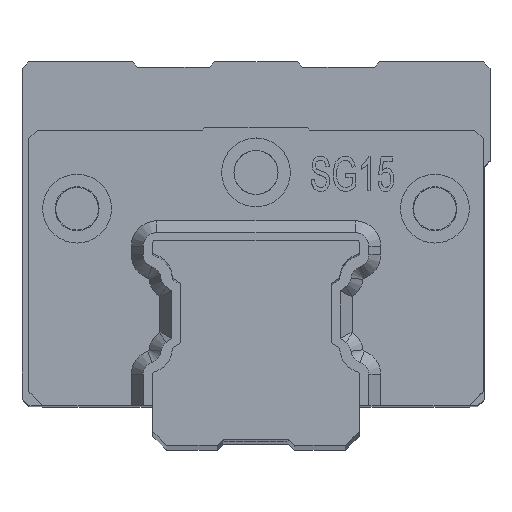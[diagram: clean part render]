
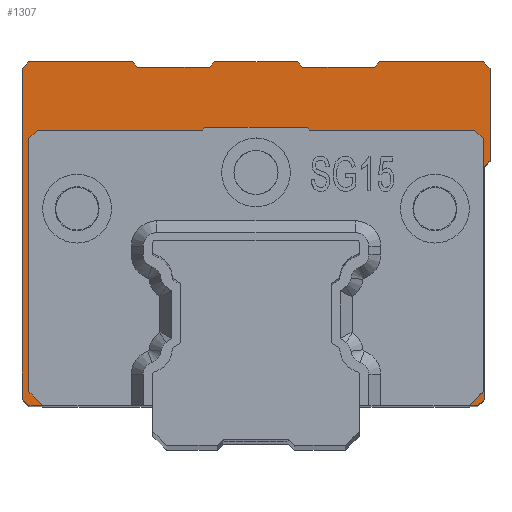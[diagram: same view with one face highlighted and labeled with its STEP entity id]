
A CAD part, top view. The second image highlights one B-rep face of the part: STEP entity #1307.
In plain terms, the highlighted planar face has unit normal (0, 0, 1).
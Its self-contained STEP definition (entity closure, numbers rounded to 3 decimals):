
#1307=ADVANCED_FACE('',(#1918),#1624,.F.);
#1624=PLANE('',#8254);
#1918=FACE_OUTER_BOUND('',#2338,.T.);
#2338=EDGE_LOOP('',(#3749,#3750,#3751,#3752,#3753,#3754,#3755,#3756,#3757,
#3758,#3759,#3760,#3761,#3762,#3763,#3764,#3765,#3766,#3767,#3768,#3769,
#3770,#3771,#3772,#3773,#3774,#3775,#3776,#3777,#3778));
#3749=ORIENTED_EDGE('',*,*,#6054,.F.);
#3750=ORIENTED_EDGE('',*,*,#6033,.T.);
#3751=ORIENTED_EDGE('',*,*,#6036,.T.);
#3752=ORIENTED_EDGE('',*,*,#6038,.T.);
#3753=ORIENTED_EDGE('',*,*,#6041,.F.);
#3754=ORIENTED_EDGE('',*,*,#6042,.T.);
#3755=ORIENTED_EDGE('',*,*,#6031,.T.);
#3756=ORIENTED_EDGE('',*,*,#6029,.T.);
#3757=ORIENTED_EDGE('',*,*,#6027,.F.);
#3758=ORIENTED_EDGE('',*,*,#6025,.T.);
#3759=ORIENTED_EDGE('',*,*,#6023,.T.);
#3760=ORIENTED_EDGE('',*,*,#6020,.T.);
#3761=ORIENTED_EDGE('',*,*,#6049,.F.);
#3762=ORIENTED_EDGE('',*,*,#6196,.T.);
#3763=ORIENTED_EDGE('',*,*,#6171,.T.);
#3764=ORIENTED_EDGE('',*,*,#6168,.T.);
#3765=ORIENTED_EDGE('',*,*,#6190,.T.);
#3766=ORIENTED_EDGE('',*,*,#6160,.T.);
#3767=ORIENTED_EDGE('',*,*,#6194,.T.);
#3768=ORIENTED_EDGE('',*,*,#6173,.T.);
#3769=ORIENTED_EDGE('',*,*,#6186,.T.);
#3770=ORIENTED_EDGE('',*,*,#6176,.T.);
#3771=ORIENTED_EDGE('',*,*,#6195,.T.);
#3772=ORIENTED_EDGE('',*,*,#6179,.T.);
#3773=ORIENTED_EDGE('',*,*,#6185,.T.);
#3774=ORIENTED_EDGE('',*,*,#6182,.T.);
#3775=ORIENTED_EDGE('',*,*,#6189,.T.);
#3776=ORIENTED_EDGE('',*,*,#6163,.T.);
#3777=ORIENTED_EDGE('',*,*,#6191,.T.);
#3778=ORIENTED_EDGE('',*,*,#6166,.T.);
#5149=VERTEX_POINT('',#12282);
#5150=VERTEX_POINT('',#12283);
#5151=VERTEX_POINT('',#12288);
#5152=VERTEX_POINT('',#12292);
#5153=VERTEX_POINT('',#12296);
#5154=VERTEX_POINT('',#12300);
#5155=VERTEX_POINT('',#12304);
#5156=VERTEX_POINT('',#12308);
#5157=VERTEX_POINT('',#12309);
#5158=VERTEX_POINT('',#12314);
#5159=VERTEX_POINT('',#12318);
#5160=VERTEX_POINT('',#12322);
#5165=VERTEX_POINT('',#12337);
#5169=VERTEX_POINT('',#12348);
#5224=VERTEX_POINT('',#12566);
#5225=VERTEX_POINT('',#12567);
#5226=VERTEX_POINT('',#12572);
#5227=VERTEX_POINT('',#12573);
#5228=VERTEX_POINT('',#12578);
#5229=VERTEX_POINT('',#12582);
#5230=VERTEX_POINT('',#12583);
#5231=VERTEX_POINT('',#12588);
#5232=VERTEX_POINT('',#12592);
#5233=VERTEX_POINT('',#12593);
#5234=VERTEX_POINT('',#12598);
#5235=VERTEX_POINT('',#12599);
#5236=VERTEX_POINT('',#12604);
#5237=VERTEX_POINT('',#12605);
#5238=VERTEX_POINT('',#12610);
#5239=VERTEX_POINT('',#12611);
#6020=EDGE_CURVE('',#5149,#5150,#6905,.T.);
#6023=EDGE_CURVE('',#5151,#5149,#6908,.T.);
#6025=EDGE_CURVE('',#5152,#5151,#6910,.T.);
#6027=EDGE_CURVE('',#5152,#5153,#6912,.T.);
#6029=EDGE_CURVE('',#5154,#5153,#6914,.T.);
#6031=EDGE_CURVE('',#5155,#5154,#6916,.T.);
#6033=EDGE_CURVE('',#5156,#5157,#6918,.T.);
#6036=EDGE_CURVE('',#5157,#5158,#6921,.T.);
#6038=EDGE_CURVE('',#5158,#5159,#6923,.T.);
#6041=EDGE_CURVE('',#5160,#5159,#6926,.T.);
#6042=EDGE_CURVE('',#5160,#5155,#6927,.T.);
#6049=EDGE_CURVE('',#5165,#5150,#6934,.T.);
#6054=EDGE_CURVE('',#5156,#5169,#6939,.T.);
#6160=EDGE_CURVE('',#5224,#5225,#7003,.T.);
#6163=EDGE_CURVE('',#5226,#5227,#7006,.T.);
#6166=EDGE_CURVE('',#5228,#5169,#7009,.T.);
#6168=EDGE_CURVE('',#5229,#5230,#7011,.T.);
#6171=EDGE_CURVE('',#5231,#5229,#7014,.T.);
#6173=EDGE_CURVE('',#5232,#5233,#7016,.T.);
#6176=EDGE_CURVE('',#5234,#5235,#7019,.T.);
#6179=EDGE_CURVE('',#5236,#5237,#7022,.T.);
#6182=EDGE_CURVE('',#5238,#5239,#7025,.T.);
#6185=EDGE_CURVE('',#5237,#5238,#7028,.T.);
#6186=EDGE_CURVE('',#5233,#5234,#7029,.T.);
#6189=EDGE_CURVE('',#5239,#5226,#7030,.T.);
#6190=EDGE_CURVE('',#5230,#5224,#7031,.T.);
#6191=EDGE_CURVE('',#5227,#5228,#7032,.T.);
#6194=EDGE_CURVE('',#5225,#5232,#7033,.T.);
#6195=EDGE_CURVE('',#5235,#5236,#7034,.T.);
#6196=EDGE_CURVE('',#5165,#5231,#7035,.T.);
#6905=LINE('',#12281,#7537);
#6908=LINE('',#12287,#7540);
#6910=LINE('',#12291,#7542);
#6912=LINE('',#12295,#7544);
#6914=LINE('',#12299,#7546);
#6916=LINE('',#12303,#7548);
#6918=LINE('',#12307,#7550);
#6921=LINE('',#12313,#7553);
#6923=LINE('',#12317,#7555);
#6926=LINE('',#12323,#7558);
#6927=LINE('',#12325,#7559);
#6934=LINE('',#12338,#7566);
#6939=LINE('',#12347,#7571);
#7003=LINE('',#12565,#7635);
#7006=LINE('',#12571,#7638);
#7009=LINE('',#12577,#7641);
#7011=LINE('',#12581,#7643);
#7014=LINE('',#12587,#7646);
#7016=LINE('',#12591,#7648);
#7019=LINE('',#12597,#7651);
#7022=LINE('',#12603,#7654);
#7025=LINE('',#12609,#7657);
#7028=LINE('',#12615,#7660);
#7029=LINE('',#12617,#7661);
#7030=LINE('',#12623,#7662);
#7031=LINE('',#12625,#7663);
#7032=LINE('',#12627,#7664);
#7033=LINE('',#12633,#7665);
#7034=LINE('',#12635,#7666);
#7035=LINE('',#12637,#7667);
#7537=VECTOR('',#9143,1.);
#7540=VECTOR('',#9148,1.);
#7542=VECTOR('',#9152,1.);
#7544=VECTOR('',#9156,1.);
#7546=VECTOR('',#9160,1.);
#7548=VECTOR('',#9164,1.);
#7550=VECTOR('',#9168,1.);
#7553=VECTOR('',#9173,1.);
#7555=VECTOR('',#9177,1.);
#7558=VECTOR('',#9182,1.);
#7559=VECTOR('',#9185,1.);
#7566=VECTOR('',#9194,1.);
#7571=VECTOR('',#9201,1.);
#7635=VECTOR('',#9463,1.);
#7638=VECTOR('',#9468,1.);
#7641=VECTOR('',#9473,1.);
#7643=VECTOR('',#9477,1.);
#7646=VECTOR('',#9482,1.);
#7648=VECTOR('',#9486,1.);
#7651=VECTOR('',#9491,1.);
#7654=VECTOR('',#9496,1.);
#7657=VECTOR('',#9501,1.);
#7660=VECTOR('',#9506,1.);
#7661=VECTOR('',#9509,1.);
#7662=VECTOR('',#9516,1.);
#7663=VECTOR('',#9519,1.);
#7664=VECTOR('',#9522,1.);
#7665=VECTOR('',#9529,1.);
#7666=VECTOR('',#9532,1.);
#7667=VECTOR('',#9535,1.);
#8254=AXIS2_PLACEMENT_3D('',#12640,#9540,#9541);
#9143=DIRECTION('',(-0.707,-0.707,0.));
#9148=DIRECTION('',(0.,-1.,0.));
#9152=DIRECTION('',(0.707,-0.707,0.));
#9156=DIRECTION('',(-1.,0.,0.));
#9160=DIRECTION('',(0.707,-0.707,0.));
#9164=DIRECTION('',(1.,0.,0.));
#9168=DIRECTION('',(-0.707,0.707,0.));
#9173=DIRECTION('',(0.,1.,0.));
#9177=DIRECTION('',(0.707,0.707,0.));
#9182=DIRECTION('',(-1.,0.,0.));
#9185=DIRECTION('',(0.707,0.707,0.));
#9194=DIRECTION('',(-1.,0.,0.));
#9201=DIRECTION('',(-1.,0.,0.));
#9463=DIRECTION('',(-0.707,0.707,0.));
#9468=DIRECTION('',(-0.707,-0.707,0.));
#9473=DIRECTION('',(0.707,-0.707,0.));
#9477=DIRECTION('',(0.707,0.707,0.));
#9482=DIRECTION('',(0.,1.,0.));
#9486=DIRECTION('',(-0.707,-0.707,0.));
#9491=DIRECTION('',(-0.707,0.707,0.));
#9496=DIRECTION('',(-0.707,-0.707,0.));
#9501=DIRECTION('',(-0.707,0.707,0.));
#9506=DIRECTION('',(-1.,0.,0.));
#9509=DIRECTION('',(-1.,0.,0.));
#9516=DIRECTION('',(-1.,0.,0.));
#9519=DIRECTION('',(0.,1.,0.));
#9522=DIRECTION('',(0.,-1.,0.));
#9529=DIRECTION('',(-1.,0.,0.));
#9532=DIRECTION('',(-1.,0.,0.));
#9535=DIRECTION('',(0.707,0.707,0.));
#9540=DIRECTION('',(0.,0.,-1.));
#9541=DIRECTION('',(1.,0.,0.));
#12281=CARTESIAN_POINT('',(12.155,-2.389,224.699));
#12282=CARTESIAN_POINT('',(12.155,-2.389,224.699));
#12283=CARTESIAN_POINT('',(11.143,-3.401,224.699));
#12287=CARTESIAN_POINT('',(12.155,-3.772,224.699));
#12288=CARTESIAN_POINT('',(12.155,16.011,224.699));
#12291=CARTESIAN_POINT('',(11.555,16.611,224.699));
#12292=CARTESIAN_POINT('',(11.555,16.611,224.699));
#12295=CARTESIAN_POINT('',(6.455,16.611,224.699));
#12296=CARTESIAN_POINT('',(-0.438,16.611,224.699));
#12299=CARTESIAN_POINT('',(-0.992,17.164,224.699));
#12300=CARTESIAN_POINT('',(-0.638,16.811,224.699));
#12303=CARTESIAN_POINT('',(0.655,16.811,224.699));
#12304=CARTESIAN_POINT('',(-8.052,16.811,224.699));
#12307=CARTESIAN_POINT('',(-20.845,-2.389,224.699));
#12308=CARTESIAN_POINT('',(-19.834,-3.401,224.699));
#12309=CARTESIAN_POINT('',(-20.845,-2.389,224.699));
#12313=CARTESIAN_POINT('',(-20.845,-3.772,224.699));
#12314=CARTESIAN_POINT('',(-20.845,16.011,224.699));
#12317=CARTESIAN_POINT('',(-20.245,16.611,224.699));
#12318=CARTESIAN_POINT('',(-20.245,16.611,224.699));
#12322=CARTESIAN_POINT('',(-8.252,16.611,224.699));
#12323=CARTESIAN_POINT('',(-15.145,16.611,224.699));
#12325=CARTESIAN_POINT('',(-7.699,17.164,224.699));
#12337=CARTESIAN_POINT('',(11.755,-3.401,224.699));
#12338=CARTESIAN_POINT('',(-20.345,-3.401,224.699));
#12347=CARTESIAN_POINT('',(-20.345,-3.401,224.699));
#12348=CARTESIAN_POINT('',(-20.845,-3.401,224.699));
#12565=CARTESIAN_POINT('',(12.655,21.099,224.699));
#12566=CARTESIAN_POINT('',(12.655,21.099,224.699));
#12567=CARTESIAN_POINT('',(12.155,21.599,224.699));
#12571=CARTESIAN_POINT('',(-20.845,21.599,224.699));
#12572=CARTESIAN_POINT('',(-20.845,21.599,224.699));
#12573=CARTESIAN_POINT('',(-21.345,21.099,224.699));
#12577=CARTESIAN_POINT('',(-21.345,-2.901,224.699));
#12578=CARTESIAN_POINT('',(-21.345,-2.901,224.699));
#12581=CARTESIAN_POINT('',(12.255,13.999,224.699));
#12582=CARTESIAN_POINT('',(12.255,13.999,224.699));
#12583=CARTESIAN_POINT('',(12.655,14.399,224.699));
#12587=CARTESIAN_POINT('',(12.255,-2.901,224.699));
#12588=CARTESIAN_POINT('',(12.255,-2.901,224.699));
#12591=CARTESIAN_POINT('',(4.655,21.599,224.699));
#12592=CARTESIAN_POINT('',(4.655,21.599,224.699));
#12593=CARTESIAN_POINT('',(4.255,21.199,224.699));
#12597=CARTESIAN_POINT('',(-0.945,21.199,224.699));
#12598=CARTESIAN_POINT('',(-0.945,21.199,224.699));
#12599=CARTESIAN_POINT('',(-1.345,21.599,224.699));
#12603=CARTESIAN_POINT('',(-7.345,21.599,224.699));
#12604=CARTESIAN_POINT('',(-7.345,21.599,224.699));
#12605=CARTESIAN_POINT('',(-7.745,21.199,224.699));
#12609=CARTESIAN_POINT('',(-12.945,21.199,224.699));
#12610=CARTESIAN_POINT('',(-12.945,21.199,224.699));
#12611=CARTESIAN_POINT('',(-13.345,21.599,224.699));
#12615=CARTESIAN_POINT('',(-7.745,21.199,224.699));
#12617=CARTESIAN_POINT('',(4.255,21.199,224.699));
#12623=CARTESIAN_POINT('',(-13.345,21.599,224.699));
#12625=CARTESIAN_POINT('',(12.655,14.399,224.699));
#12627=CARTESIAN_POINT('',(-21.345,21.099,224.699));
#12633=CARTESIAN_POINT('',(12.155,21.599,224.699));
#12635=CARTESIAN_POINT('',(-1.345,21.599,224.699));
#12637=CARTESIAN_POINT('',(12.155,-3.001,224.699));
#12640=CARTESIAN_POINT('',(14.355,-4.651,224.699));
